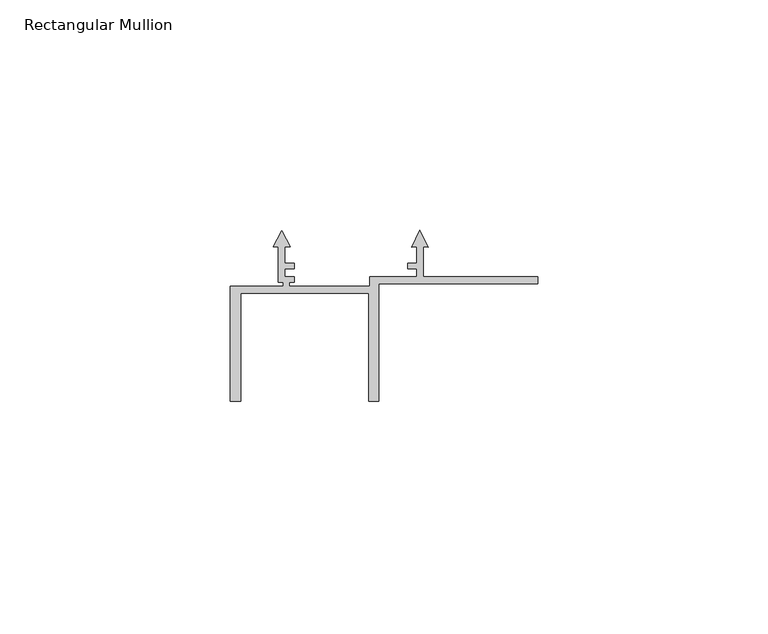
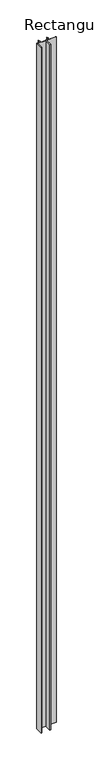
"""IFC4 building model written with IfcOpenShell, lengths in millimetres: member geometry, Rectangular Mullion : Renson_Linarte_LA-E25-01 Zone B."""

from ifc_helpers import new_model, si_unit, frame, origin, place, context, project, spatial, polyline, outline, extrude, source, transform, mapped, element, save


def rectangular_mullion_6a9919f5(model_context):
    return source(origin(), model_context, "Body", "SweptSolid", [
        extrude(outline(polyline([(66.6, -21.6000494), (32.2, -21.6000494), (32.2, -47.1000494), (30.0, -47.1000494), (30.0, -23.6000494), (2.2, -23.6000494), (2.2, -47.1000494), (0.0, -47.1000494), (0.0, -22.1000494), (11.4, -22.1000494), (11.4, -21.3015754), (10.3999985, -21.3015754), (10.3999985, -13.5038712), (9.284262, -13.6014855), (11.0999986, -10.037898), (12.9157351, -13.6014855), (11.7999987, -13.5038712), (11.7999987, -17.0979618), (13.7875618, -17.0979618), (13.7875618, -18.3000494), (11.8091794, -18.3000494), (11.8091794, -20.1000494), (13.7880766, -20.1000494), (13.7880766, -21.3015754), (12.8, -21.3015754), (12.8, -22.1000494), (30.1732051, -22.1000494), (30.1732051, -20.1000494), (40.3999995, -20.1000494), (40.3999995, -18.3000494), (38.4077357, -18.3000494), (38.4077357, -17.099221), (40.3999998, -17.099221), (40.3999998, -13.5071867), (39.2744672, -13.6056581), (41.0999986, -10.0228474), (42.9255299, -13.6056578), (41.8, -13.5071867), (41.8, -20.1000494), (66.6, -20.1000494), (66.6, -21.6000494)])), frame((0.0, 0.0, -2475.0), z_axis=(0.0, 0.0, 1.0), x_axis=(1.0, 0.0, 0.0)), (0.0, 0.0, 1.0), 2475.0),
    ])


if __name__ == "__main__":
    model = new_model("IFC4")
    model_context = context("Model", 3, world=origin())
    ifc_project = project(units=[si_unit("LENGTHUNIT", "METRE", prefix="MILLI")], contexts=[model_context])
    site = spatial("IfcSite", under=ifc_project)
    building = spatial("IfcBuilding", under=site)
    placement = place(None, origin())
    rectangular_mullion_shape = rectangular_mullion_6a9919f5(model_context)
    element("IfcMember", 1, ObjectType="Rectangular Mullion : Renson_Linarte_LA-E25-01 Zone B", at=placement, inside=building, context=model_context, shape_type="MappedRepresentation", body=[
        mapped(rectangular_mullion_shape, transform((0.0, 0.0, 0.0), x_axis=(1.0, 0.0, 0.0), y_axis=(0.0, 1.0, 0.0), z_axis=(0.0, 0.0, 1.0))),
    ])
    save(model, "model.ifc")
